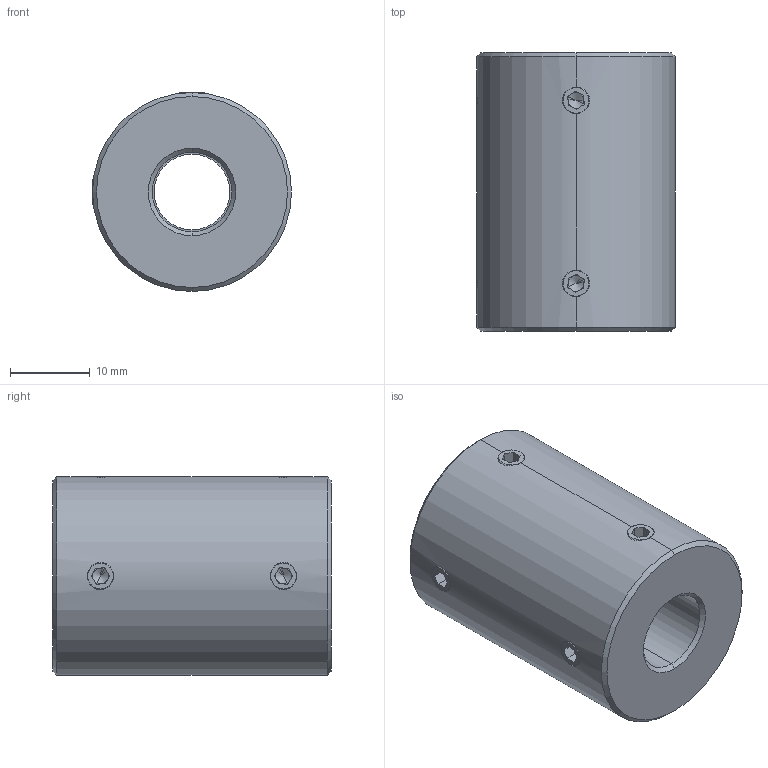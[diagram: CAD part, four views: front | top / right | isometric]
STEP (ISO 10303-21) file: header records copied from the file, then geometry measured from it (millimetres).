
FILE_DESCRIPTION (( 'STEP AP214' ), '1' );
FILE_NAME ('LL-D-D25L35-9.525-10½¨Ä£.STEP', '2022-07-23T00:42:24', ( '' ), ( '' ), 'SwSTEP 2.0', 'SolidWorks 2022', '' );
FILE_SCHEMA (( 'AUTOMOTIVE_DESIGN' ));
Length unit declared in the file: millimetre
Products named in the file (1): LL-D-D25L35-9.525-10膘耀
Bounding box: 25 x 35 x 25 mm (x, y, z)
Volume: 14379.1 mm3; surface area: 4820.6 mm2
Topology: 1 solids, 1 shells, 113 faces, 286 edges, 176 vertices
Faces by surface type: plane 59, cone 32, cylinder 22
Entity records: 3726 total; most frequent: CARTESIAN_POINT 1016, DIRECTION 558, ORIENTED_EDGE 556, EDGE_CURVE 278, AXIS2_PLACEMENT_3D 206, VERTEX_POINT 176, LINE 146, VECTOR 146
